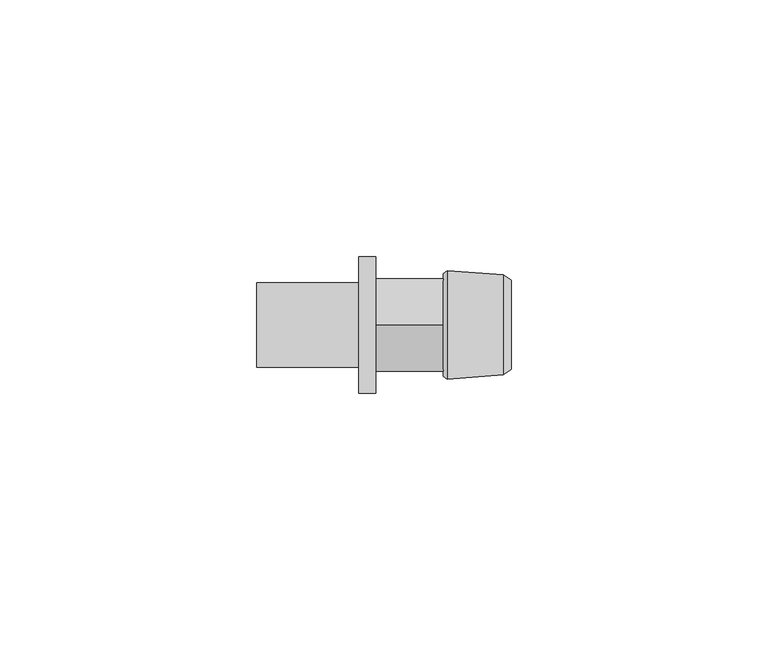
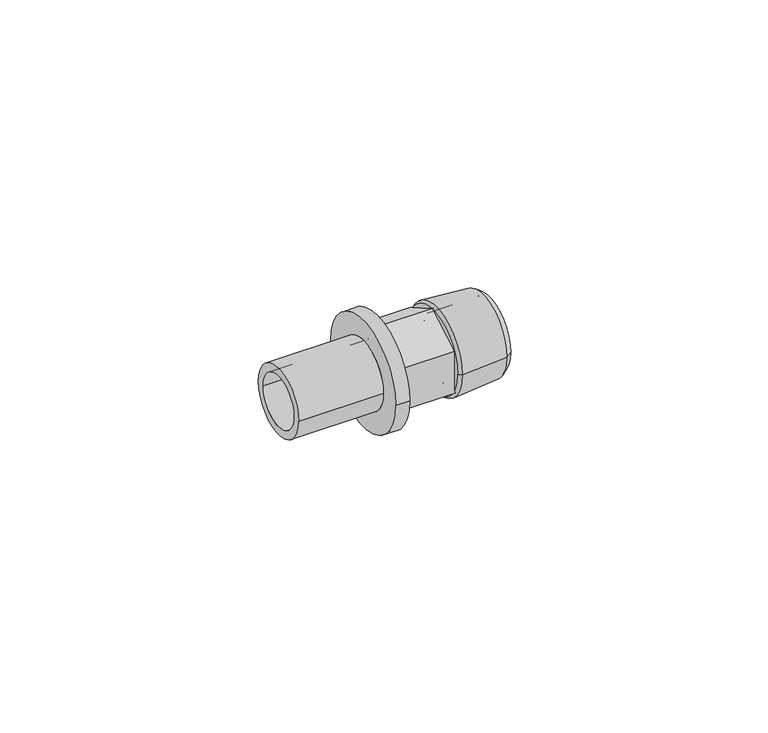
"""IFC4 building model written with IfcOpenShell, lengths in millimetres: pipe fitting geometry, REHAU_RAUTITAN_Adaptor_RX+, with external thread : REHAU_RAUTITAN_Adaptor_RX+, with external thread."""

import ifcopenshell
import ifcopenshell.guid

model = None  # the IFC model being written
_history = None  # IfcOwnerHistory: only IFC2X3 demands one
_inside = {}  # id of a spatial element -> (the spatial element, [elements in it])
_under = {}  # id of a project, library or spatial element -> (it, [spatial elements below it])
_declared = {}  # id of a project -> (the project, [libraries it declares])
_typed = {}  # id of a type object -> (the type object, [elements of that type])
_made_of = {}  # id of a material, layer set ... -> (it, [elements and type objects made of it])


def new_model(schema):
    """Start an empty IFC model of exactly this schema.

    Asked for "IFC4X3", IfcOpenShell would pick the latest addendum, in which some entities
    have other attributes; the version numbers below select the first issue.
    IFC2X3 requires an IfcOwnerHistory on every rooted entity: one is made here for all.
    """
    global model, _history
    if schema == "IFC4X3":
        model = ifcopenshell.file(schema_version=(4, 3, 0, 0))
    else:
        model = ifcopenshell.file(schema=schema)
    _inside.clear()
    _under.clear()
    _declared.clear()
    _typed.clear()
    _made_of.clear()
    _history = None
    if model.schema == "IFC2X3":
        org = make("IfcOrganization", Name="unknown")
        user = make(
            "IfcPersonAndOrganization",
            ThePerson=make("IfcPerson", FamilyName="unknown"),
            TheOrganization=org,
        )
        app = make(
            "IfcApplication",
            ApplicationDeveloper=org,
            Version="unknown",
            ApplicationFullName="unknown",
            ApplicationIdentifier="unknown",
        )
        _history = make(
            "IfcOwnerHistory",
            OwningUser=user,
            OwningApplication=app,
            ChangeAction="ADDED",
            CreationDate=0,
        )
    return model


def make(cls, **values):
    """One entity of the class cls with the attributes given. An attribute that is None is left unset."""
    return model.create_entity(
        cls, **{name: value for name, value in values.items() if value is not None}
    )


def rooted(cls, **values):
    """An entity with a GlobalId (a new one), such as an element, a storey or a relation."""
    return make(cls, GlobalId=ifcopenshell.guid.new(), OwnerHistory=_history, **values)


def si_unit(unit_type, name, prefix=None):
    """IfcSIUnit, for example si_unit("LENGTHUNIT", "METRE", prefix="MILLI")."""
    return make("IfcSIUnit", UnitType=unit_type, Prefix=prefix, Name=name)


def assignment(units):
    """IfcUnitAssignment: the units of a project."""
    return None if units is None else make("IfcUnitAssignment", Units=units)


def point(xyz):
    """IfcCartesianPoint."""
    return None if xyz is None else make("IfcCartesianPoint", Coordinates=xyz)


def direction(xyz):
    """IfcDirection."""
    return None if xyz is None else make("IfcDirection", DirectionRatios=xyz)


def frame(location, z_axis=None, x_axis=None):
    """IfcAxis2Placement3D, a coordinate frame: its origin and axes. An axis left out is left unset."""
    return make(
        "IfcAxis2Placement3D",
        Location=point(location),
        Axis=direction(z_axis),
        RefDirection=direction(x_axis),
    )


def frame_2d(location, x_axis=None):
    """IfcAxis2Placement2D, a coordinate frame in the plane: its origin and x axis."""
    return make(
        "IfcAxis2Placement2D", Location=point(location), RefDirection=direction(x_axis)
    )


def origin():
    """The frame at (0, 0, 0) with its axes left unset."""
    return frame((0.0, 0.0, 0.0))


def origin_2d():
    """The frame at (0, 0) in the plane with its x axis left unset."""
    return frame_2d((0.0, 0.0))


def place(relative_to, where):
    """IfcLocalPlacement: puts the frame where relative to a parent placement (None: the world)."""
    return make(
        "IfcLocalPlacement", PlacementRelTo=relative_to, RelativePlacement=where
    )


def context(
    kind, dimensions, precision=None, world=None, true_north=None, identifier=None
):
    """IfcGeometricRepresentationContext, for example the 3D "Model" context."""
    return make(
        "IfcGeometricRepresentationContext",
        ContextIdentifier=identifier,
        ContextType=kind,
        CoordinateSpaceDimension=dimensions,
        Precision=precision,
        WorldCoordinateSystem=world,
        TrueNorth=true_north,
    )


def project(units=None, contexts=None):
    """IfcProject with its units and contexts."""
    return rooted(
        "IfcProject",
        Name="project",
        RepresentationContexts=contexts,
        UnitsInContext=assignment(units),
    )


def spatial(cls, under=None, at=None, **own):
    """A site, building, storey or space (cls), placed at a placement, below another one or the project."""
    s = rooted(cls, ObjectPlacement=at, **own)
    if under is not None:
        _under.setdefault(under.id(), (under, []))[1].append(s)
    return s


def polyline(points):
    """IfcPolyline through the points."""
    return make("IfcPolyline", Points=[point(p) for p in points])


def circle_curve(where, radius):
    """IfcCircle in the frame where."""
    return make("IfcCircle", Position=where, Radius=radius)


def trimmed(basis, trim1, trim2, sense, master):
    """IfcTrimmedCurve: the piece of a basis curve between two trims."""
    return make(
        "IfcTrimmedCurve",
        BasisCurve=basis,
        Trim1=trim1,
        Trim2=trim2,
        SenseAgreement=sense,
        MasterRepresentation=master,
    )


def segment(curve, same_sense, transition):
    """IfcCompositeCurveSegment."""
    return make(
        "IfcCompositeCurveSegment",
        Transition=transition,
        SameSense=same_sense,
        ParentCurve=curve,
    )


def composite_curve(segments, self_intersect=None):
    """IfcCompositeCurve: segments joined end to end."""
    return make("IfcCompositeCurve", Segments=segments, SelfIntersect=self_intersect)


def outline(outer, holes=None, kind="AREA"):
    """IfcArbitraryClosedProfileDef: a profile drawn as a closed curve; with holes, ...WithVoids."""
    if holes is None:
        return make("IfcArbitraryClosedProfileDef", ProfileType=kind, OuterCurve=outer)
    return make(
        "IfcArbitraryProfileDefWithVoids",
        ProfileType=kind,
        OuterCurve=outer,
        InnerCurves=holes,
    )


def extrude(swept, where, along, depth):
    """IfcExtrudedAreaSolid: the profile swept, set in the frame where, extruded along a direction by depth."""
    return make(
        "IfcExtrudedAreaSolid",
        SweptArea=swept,
        Position=where,
        ExtrudedDirection=direction(along),
        Depth=depth,
    )


def shape(context_of_items, identifier, shape_type, items):
    """IfcShapeRepresentation: the items that make up one representation, for example the "Body"."""
    return make(
        "IfcShapeRepresentation",
        ContextOfItems=context_of_items,
        RepresentationIdentifier=identifier,
        RepresentationType=shape_type,
        Items=items,
    )


def source(mapping_origin, context_of_items, identifier, shape_type, items):
    """IfcRepresentationMap: a shape defined once, which mapped items show again and again."""
    return make(
        "IfcRepresentationMap",
        MappingOrigin=mapping_origin,
        MappedRepresentation=shape(context_of_items, identifier, shape_type, items),
    )


def transform(
    local_origin,
    x_axis=None,
    y_axis=None,
    z_axis=None,
    scale=None,
    scale2=None,
    scale3=None,
    uniform=True,
):
    """IfcCartesianTransformationOperator3D, or its non-uniform kind. x_axis, y_axis, z_axis: its Axis1, 2, 3."""
    if uniform:
        return make(
            "IfcCartesianTransformationOperator3D",
            Axis1=direction(x_axis),
            Axis2=direction(y_axis),
            LocalOrigin=point(local_origin),
            Scale=scale,
            Axis3=direction(z_axis),
        )
    return make(
        "IfcCartesianTransformationOperator3DnonUniform",
        Axis1=direction(x_axis),
        Axis2=direction(y_axis),
        LocalOrigin=point(local_origin),
        Scale=scale,
        Axis3=direction(z_axis),
        Scale2=scale2,
        Scale3=scale3,
    )


def mapped(mapping_source, mapping_target):
    """IfcMappedItem: shows the shape of a source again, moved by a transform."""
    return make(
        "IfcMappedItem", MappingSource=mapping_source, MappingTarget=mapping_target
    )


def made_of(thing, what):
    """Note that an element or type object is made of a material, layer set ...; save() writes the relation."""
    if what is not None:
        _made_of.setdefault(what.id(), (what, []))[1].append(thing)
    return thing


def element(
    cls,
    number,
    at=None,
    inside=None,
    cuts=None,
    type_object=None,
    material=None,
    context=None,
    identifier="Body",
    shape_type=None,
    held_by="IfcProductDefinitionShape",
    body=None,
    shapes=None,
    **own,
):
    """One element of the class cls, such as IfcWall. Its Tag is "e" and its number.

    at: its placement. inside: the storey or other place that contains it. cuts: it is an
    opening in that element (IfcRelVoidsElement). A single representation is given by context,
    identifier, shape_type and body (its items); several are given by shapes. held_by: the class
    of the entity that holds the representations. save() writes the other relations.
    """
    e = rooted(cls, Tag="e%d" % number, ObjectPlacement=at, **own)
    if body is not None:
        shapes = [shape(context, identifier, shape_type, body)]
    if shapes is not None:
        e.Representation = make(held_by, Representations=shapes)
    if inside is not None:
        _inside.setdefault(inside.id(), (inside, []))[1].append(e)
    if cuts is not None:
        rooted(
            "IfcRelVoidsElement", RelatingBuildingElement=cuts, RelatedOpeningElement=e
        )
    if type_object is not None:
        _typed.setdefault(type_object.id(), (type_object, []))[1].append(e)
    return made_of(e, material)


def aggregate(whole, parts):
    """IfcRelAggregates: a whole, such as a stair, and the parts it consists of."""
    return rooted("IfcRelAggregates", RelatingObject=whole, RelatedObjects=parts)


def save(model, path):
    """Write the relations noted so far, then the file.

    IfcRelAggregates (storeys below a building ...), IfcRelContainedInSpatialStructure (elements
    in a storey), IfcRelDefinesByType, IfcRelAssociatesMaterial and IfcRelDeclares: one each for
    every whole, place, type object, material and project.
    """
    for whole, parts in _under.values():
        aggregate(whole, parts)
    for where, things in _inside.values():
        rooted(
            "IfcRelContainedInSpatialStructure",
            RelatedElements=things,
            RelatingStructure=where,
        )
    for kind, things in _typed.values():
        rooted("IfcRelDefinesByType", RelatedObjects=things, RelatingType=kind)
    for what, things in _made_of.values():
        rooted("IfcRelAssociatesMaterial", RelatedObjects=things, RelatingMaterial=what)
    for by, libraries in _declared.values():
        rooted("IfcRelDeclares", RelatingContext=by, RelatedDefinitions=libraries)
    model.write(path)


def plane_surface(at):
    """IfcPlane: the flat surface through the origin of the frame at, square to its z axis."""
    return make("IfcPlane", Position=at)


def cylinder_surface(at, radius):
    """IfcCylindricalSurface: all points at the distance radius from the z axis of the frame at."""
    return make("IfcCylindricalSurface", Position=at, Radius=radius)


def revolved_surface(curve, axis_point, axis_direction):
    """IfcSurfaceOfRevolution: the curve turned about the line through axis_point along axis_direction."""
    return make(
        "IfcSurfaceOfRevolution",
        SweptCurve=make("IfcArbitraryOpenProfileDef", ProfileType="CURVE", Curve=curve),
        AxisPosition=make("IfcAxis1Placement", Location=point(axis_point), Axis=direction(axis_direction)),
    )


def advanced_brep(points, edges, surfaces, faces):
    """IfcAdvancedBrep: a solid bounded by faces that lie on surfaces and meet in shared edges.

    An edge is (start, end): straight between two places in points (the first is 0);
    or (start, end, curve); or (start, end, curve, False) where it runs against its curve.
    A face is (place in surfaces, loops), or (place, loops, False) where it looks against
    its surface's normal. A loop lists edges by number (the first is 1), with a minus sign
    where the edge is run from its end to its start. The first loop is the outer one.
    """
    corners = [point(p) for p in points]
    vertices = [make("IfcVertexPoint", VertexGeometry=c) for c in corners]
    made = []
    for start, end, *more in edges:
        made.append(
            make(
                "IfcEdgeCurve",
                EdgeStart=vertices[start],
                EdgeEnd=vertices[end],
                EdgeGeometry=more[0] if more else make("IfcPolyline", Points=[corners[start], corners[end]]),
                SameSense=more[1] if len(more) > 1 else True,
            )
        )
    hull = []
    for where, loops, *sense in faces:
        bounds = []
        for j, loop in enumerate(loops):
            ring = [make("IfcOrientedEdge", EdgeElement=made[abs(k) - 1], Orientation=k > 0) for k in loop]
            bounds.append(
                make(
                    "IfcFaceOuterBound" if j == 0 else "IfcFaceBound",
                    Bound=make("IfcEdgeLoop", EdgeList=ring),
                    Orientation=True,
                )
            )
        hull.append(make("IfcAdvancedFace", Bounds=bounds, FaceSurface=surfaces[where], SameSense=sense[0] if sense else True))
    return make("IfcAdvancedBrep", Outer=make("IfcClosedShell", CfsFaces=hull))


def pipe_fitting_8540cbe0(model_context):
    return source(origin(), model_context, "Body", "SolidModel", [
        advanced_brep(
        [(14.2132803, 7.5, 0.0), (14.2132803, -7.5, 0.0), (26.31, -7.5, 0.0), (26.31, 7.5, 0.0), (13.11, 6.3967197, 0.0), (13.11, -6.3967197, 0.0), (13.8506902, 10.525, 0.0), (13.8506902, -10.525, 0.0), (13.11, -10.0, 0.0), (13.11, 10.0, 0.0), (24.8100007, 9.73, 0.0), (24.8100007, -9.73, 0.0), (26.31, 8.675, 0.0), (26.31, -8.675, 0.0)],
        [
            (0, 1, circle_curve(frame((14.2132803, 0.0, 0.0), z_axis=(-1.0, 0.0, 0.0), x_axis=(0.0, -1.0, 0.0)), 7.5)),
            (1, 2),
            (2, 3, circle_curve(frame((26.31, 0.0, 0.0), z_axis=(1.0, 0.0, 0.0), x_axis=(0.0, -1.0, 0.0)), 7.5)),
            (3, 0),
            (4, 5, circle_curve(frame((13.11, 0.0, 0.0), z_axis=(-1.0, 0.0, 0.0), x_axis=(0.0, -1.0, 0.0)), 6.3967197)),
            (5, 1),
            (0, 4),
            (6, 7, circle_curve(frame((13.8506902, 0.0, 0.0), z_axis=(-1.0, 0.0, 0.0), x_axis=(0.0, -1.0, 0.0)), 10.525)),
            (7, 8),
            (8, 9, circle_curve(frame((13.11, 0.0, 0.0), z_axis=(1.0, 0.0, 0.0), x_axis=(0.0, -1.0, 0.0)), 10.0)),
            (9, 6),
            (10, 11, circle_curve(frame((24.8100007, 0.0, 0.0), z_axis=(-1.0, 0.0, 0.0), x_axis=(0.0, -1.0, 0.0)), 9.73)),
            (11, 7),
            (6, 10),
            (12, 13, circle_curve(frame((26.31, 0.0, 0.0), z_axis=(-1.0, 0.0, 0.0), x_axis=(0.0, -1.0, 0.0)), 8.675)),
            (13, 11),
            (10, 12),
            (1, 0, circle_curve(frame((14.2132803, 0.0, 0.0), z_axis=(-1.0, 0.0, 0.0), x_axis=(0.0, 1.0, 0.0)), 7.5)),
            (3, 2, circle_curve(frame((26.31, 0.0, 0.0), z_axis=(1.0, 0.0, 0.0), x_axis=(0.0, 1.0, 0.0)), 7.5)),
            (5, 4, circle_curve(frame((13.11, 0.0, 0.0), z_axis=(-1.0, 0.0, 0.0), x_axis=(0.0, 1.0, 0.0)), 6.3967197)),
            (8, 9, circle_curve(frame((13.11, 0.0, 0.0), z_axis=(-1.0, 0.0, 0.0), x_axis=(0.0, 1.0, 0.0)), 10.0)),
            (7, 6, circle_curve(frame((13.8506902, 0.0, 0.0), z_axis=(-1.0, 0.0, 0.0), x_axis=(0.0, 1.0, 0.0)), 10.525)),
            (11, 10, circle_curve(frame((24.8100007, 0.0, 0.0), z_axis=(-1.0, 0.0, 0.0), x_axis=(0.0, 1.0, 0.0)), 9.73)),
            (13, 12, circle_curve(frame((26.31, 0.0, 0.0), z_axis=(-1.0, 0.0, 0.0), x_axis=(0.0, 1.0, 0.0)), 8.675)),
        ],
        [
            revolved_surface(polyline([(26.31, -7.5, 0.0), (14.2132803, -7.5, 0.0)]), (0.0, 0.0, 0.0), (1.0, 0.0, 0.0)),
            revolved_surface(polyline([(14.2132803, -7.5, 0.0), (13.11, -6.3967197, 0.0)]), (0.0, 0.0, 0.0), (1.0, 0.0, 0.0)),
            revolved_surface(polyline([(13.11, -10.0, 0.0), (13.8506902, -10.525, 0.0)]), (0.0, 0.0, 0.0), (1.0, 0.0, 0.0)),
            revolved_surface(polyline([(13.8506902, -10.525, 0.0), (24.8100007, -9.73, 0.0)]), (0.0, 0.0, 0.0), (1.0, 0.0, 0.0)),
            revolved_surface(polyline([(24.8100007, -9.73, 0.0), (26.31, -8.675, 0.0)]), (0.0, 0.0, 0.0), (1.0, 0.0, 0.0)),
            revolved_surface(polyline([(26.31, 7.5, 0.0), (14.2132803, 7.5, 0.0)]), (0.0, 0.0, 0.0), (1.0, 0.0, 0.0)),
            revolved_surface(polyline([(14.2132803, 7.5, 0.0), (13.11, 6.3967197, 0.0)]), (0.0, 0.0, 0.0), (1.0, 0.0, 0.0)),
            plane_surface(frame((13.11, 0.0, 0.0), z_axis=(-1.0, 0.0, 0.0), x_axis=(0.0, 1.0, 0.0))),
            revolved_surface(polyline([(13.11, 10.0, 0.0), (13.8506902, 10.525, 0.0)]), (0.0, 0.0, 0.0), (1.0, 0.0, 0.0)),
            revolved_surface(polyline([(13.8506902, 10.525, 0.0), (24.8100007, 9.73, 0.0)]), (0.0, 0.0, 0.0), (1.0, 0.0, 0.0)),
            revolved_surface(polyline([(24.8100007, 9.73, 0.0), (26.31, 8.675, 0.0)]), (0.0, 0.0, 0.0), (1.0, 0.0, 0.0)),
            plane_surface(frame((26.31, 0.0, 0.0), z_axis=(1.0, 0.0, 0.0), x_axis=(0.0, 1.0, 0.0))),
        ],
        [
            (0, [[1, 2, 3, 4]]),
            (1, [[5, 6, -1, 7]]),
            (2, [[8, 9, 10, 11]]),
            (3, [[12, 13, -8, 14]]),
            (4, [[15, 16, -12, 17]]),
            (5, [[18, -4, 19, -2]]),
            (6, [[20, -7, -18, -6]]),
            (7, [[21, -10], [-20, -5]]),
            (8, [[22, -11, -21, -9]]),
            (9, [[23, -14, -22, -13]]),
            (10, [[24, -17, -23, -16]]),
            (11, [[-24, -15], [-19, -3]]),
        ],
    ),
        extrude(outline(polyline([(0.0, -10.3923048), (-9.0, -5.1961524), (-9.0, 5.1961524), (0.0, 10.3923048), (9.0, 5.1961524), (9.0, -5.1961524), (0.0, -10.3923048)]), holes=[composite_curve([segment(trimmed(circle_curve(origin_2d(), 6.25), [point((-6.25, 0.0))], [point((6.25, 0.0))], True, "CARTESIAN"), True, "CONTINUOUS"), segment(trimmed(circle_curve(origin_2d(), 6.25), [point((6.25, 0.0))], [point((-6.25, 0.0))], True, "CARTESIAN"), True, "CONTINUOUS")], self_intersect=False)]), frame((0.0, 0.0, 0.0), z_axis=(1.0, 0.0, 0.0), x_axis=(0.0, 1.0, 0.0)), (0.0, 0.0, 1.0), 13.11),
        advanced_brep(
        [(-23.19, 6.25, 0.0), (-23.19, -6.25, 0.0), (0.0, -6.25, 0.0), (0.0, 6.25, 0.0), (-3.33, 8.225, 0.0), (-3.33, -8.225, 0.0), (-23.19, -8.225, 0.0), (-23.19, 8.225, 0.0), (0.0, 13.25, 0.0), (0.0, -13.25, 0.0), (-3.33, -13.25, 0.0), (-3.33, 13.25, 0.0)],
        [
            (0, 1, circle_curve(frame((-23.19, 0.0, 0.0), z_axis=(-1.0, 0.0, 0.0), x_axis=(0.0, -1.0, 0.0)), 6.25)),
            (1, 2),
            (2, 3, circle_curve(frame((0.0, 0.0, 0.0), z_axis=(1.0, 0.0, 0.0), x_axis=(0.0, -1.0, 0.0)), 6.25)),
            (3, 0),
            (4, 5, circle_curve(frame((-3.33, 0.0, 0.0), z_axis=(-1.0, 0.0, 0.0), x_axis=(0.0, -1.0, 0.0)), 8.225)),
            (5, 6),
            (6, 7, circle_curve(frame((-23.19, 0.0, 0.0), z_axis=(1.0, 0.0, 0.0), x_axis=(0.0, -1.0, 0.0)), 8.225)),
            (7, 4),
            (8, 9, circle_curve(frame((0.0, 0.0, 0.0), z_axis=(-1.0, 0.0, 0.0), x_axis=(0.0, -1.0, 0.0)), 13.25)),
            (9, 10),
            (10, 11, circle_curve(frame((-3.33, 0.0, 0.0), z_axis=(1.0, 0.0, 0.0), x_axis=(0.0, -1.0, 0.0)), 13.25)),
            (11, 8),
            (8, 9, circle_curve(frame((0.0, 0.0, 0.0), z_axis=(1.0, 0.0, 0.0), x_axis=(0.0, 1.0, 0.0)), 13.25)),
            (2, 3, circle_curve(frame((0.0, 0.0, 0.0), z_axis=(-1.0, 0.0, 0.0), x_axis=(0.0, 1.0, 0.0)), 6.25)),
            (1, 0, circle_curve(frame((-23.19, 0.0, 0.0), z_axis=(-1.0, 0.0, 0.0), x_axis=(0.0, 1.0, 0.0)), 6.25)),
            (6, 7, circle_curve(frame((-23.19, 0.0, 0.0), z_axis=(-1.0, 0.0, 0.0), x_axis=(0.0, 1.0, 0.0)), 8.225)),
            (5, 4, circle_curve(frame((-3.33, 0.0, 0.0), z_axis=(-1.0, 0.0, 0.0), x_axis=(0.0, 1.0, 0.0)), 8.225)),
            (10, 11, circle_curve(frame((-3.33, 0.0, 0.0), z_axis=(-1.0, 0.0, 0.0), x_axis=(0.0, 1.0, 0.0)), 13.25)),
        ],
        [
            revolved_surface(polyline([(0.0, -6.25, 0.0), (-23.19, -6.25, 0.0)]), (0.0, 0.0, 0.0), (1.0, 0.0, 0.0)),
            cylinder_surface(frame((0.0, 0.0, 0.0), z_axis=(1.0, 0.0, 0.0), x_axis=(0.0, -1.0, 0.0)), 8.225),
            cylinder_surface(frame((0.0, 0.0, 0.0), z_axis=(1.0, 0.0, 0.0), x_axis=(0.0, -1.0, 0.0)), 13.25),
            plane_surface(frame((0.0, 0.0, 0.0), z_axis=(1.0, 0.0, 0.0), x_axis=(0.0, 1.0, 0.0))),
            revolved_surface(polyline([(0.0, 6.25, 0.0), (-23.19, 6.25, 0.0)]), (0.0, 0.0, 0.0), (1.0, 0.0, 0.0)),
            plane_surface(frame((-23.19, 0.0, 0.0), z_axis=(-1.0, 0.0, 0.0), x_axis=(0.0, 1.0, 0.0))),
            cylinder_surface(frame((0.0, 0.0, 0.0), z_axis=(1.0, 0.0, 0.0), x_axis=(0.0, 1.0, 0.0)), 8.225),
            plane_surface(frame((-3.33, 0.0, 0.0), z_axis=(-1.0, 0.0, 0.0), x_axis=(0.0, 1.0, 0.0))),
            cylinder_surface(frame((0.0, 0.0, 0.0), z_axis=(1.0, 0.0, 0.0), x_axis=(0.0, 1.0, 0.0)), 13.25),
        ],
        [
            (0, [[1, 2, 3, 4]]),
            (1, [[5, 6, 7, 8]]),
            (2, [[9, 10, 11, 12]]),
            (3, [[13, -9], [14, -3]]),
            (4, [[15, -4, -14, -2]]),
            (5, [[16, -7], [-15, -1]]),
            (6, [[17, -8, -16, -6]]),
            (7, [[18, -11], [-17, -5]]),
            (8, [[-13, -12, -18, -10]]),
        ],
    ),
    ])


if __name__ == "__main__":
    model = new_model("IFC4")
    model_context = context("Model", 3, world=origin())
    ifc_project = project(units=[si_unit("LENGTHUNIT", "METRE", prefix="MILLI")], contexts=[model_context])
    site = spatial("IfcSite", under=ifc_project)
    building = spatial("IfcBuilding", under=site)
    placement = place(None, origin())
    pipe_fitting_shape = pipe_fitting_8540cbe0(model_context)
    element("IfcPipeFitting", 1, ObjectType="REHAU_RAUTITAN_Adaptor_RX+, with external thread : REHAU_RAUTITAN_Adaptor_RX+, with external thread", at=placement, inside=building, context=model_context, shape_type="MappedRepresentation", body=[
        mapped(pipe_fitting_shape, transform((0.0, 0.0, 0.0), x_axis=(1.0, 0.0, 0.0), y_axis=(0.0, 1.0, 0.0), z_axis=(0.0, 0.0, 1.0))),
    ])
    save(model, "model.ifc")
